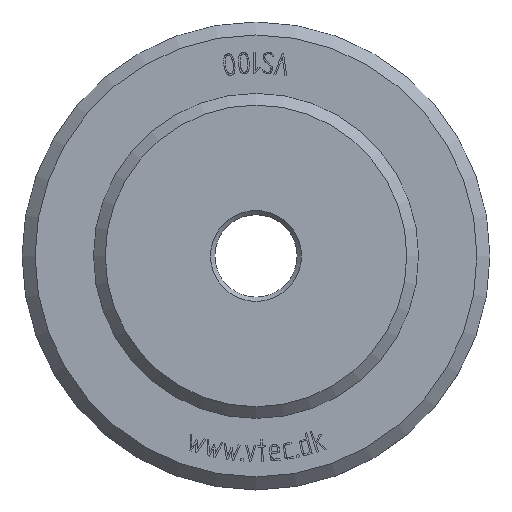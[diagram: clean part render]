
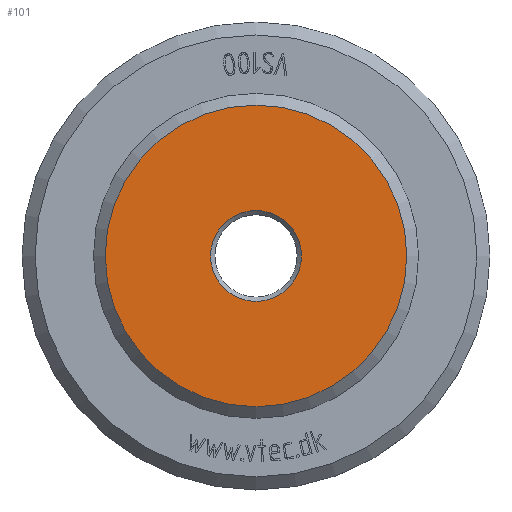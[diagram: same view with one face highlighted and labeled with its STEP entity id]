
A CAD part, top view. The second image highlights one B-rep face of the part: STEP entity #101.
In plain terms, the highlighted planar face has unit normal (0, 0, 1).
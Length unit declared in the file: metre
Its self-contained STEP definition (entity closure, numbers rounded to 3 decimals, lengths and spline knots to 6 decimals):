
#101 = ADVANCED_FACE( '', ( #310, #311 ), #312, .F. );
#310 = FACE_BOUND( '', #680, .T. );
#311 = FACE_OUTER_BOUND( '', #681, .T. );
#312 = PLANE( '', #682 );
#680 = EDGE_LOOP( '', ( #1439 ) );
#681 = EDGE_LOOP( '', ( #1440 ) );
#682 = AXIS2_PLACEMENT_3D( '', #1441, #1442, #1443 );
#1439 = ORIENTED_EDGE( '', *, *, #2725, .F. );
#1440 = ORIENTED_EDGE( '', *, *, #2701, .T. );
#1441 = CARTESIAN_POINT( '', ( 0.0348, 0., 0.00935 ) );
#1442 = DIRECTION( '', ( 0., 0., -1. ) );
#1443 = DIRECTION( '', ( -1., 0., 0. ) );
#2701 = EDGE_CURVE( '', #3212, #3212, #3213, .T. );
#2725 = EDGE_CURVE( '', #3249, #3249, #3250, .T. );
#3212 = VERTEX_POINT( '', #4428 );
#3213 = CIRCLE( '', #4429, 0.0348 );
#3249 = VERTEX_POINT( '', #4556 );
#3250 = CIRCLE( '', #4557, 0.0105 );
#4428 = CARTESIAN_POINT( '', ( 0.0348, 0., 0.00935 ) );
#4429 = AXIS2_PLACEMENT_3D( '', #5364, #5365, #5366 );
#4556 = CARTESIAN_POINT( '', ( 0.0105, 0., 0.00935 ) );
#4557 = AXIS2_PLACEMENT_3D( '', #5388, #5389, #5390 );
#5364 = CARTESIAN_POINT( '', ( 0., 0., 0.00935 ) );
#5365 = DIRECTION( '', ( 0., 0., 1. ) );
#5366 = DIRECTION( '', ( 1., 0., 0. ) );
#5388 = CARTESIAN_POINT( '', ( 0., 0., 0.00935 ) );
#5389 = DIRECTION( '', ( 0., 0., 1. ) );
#5390 = DIRECTION( '', ( 1., 0., 0. ) );
